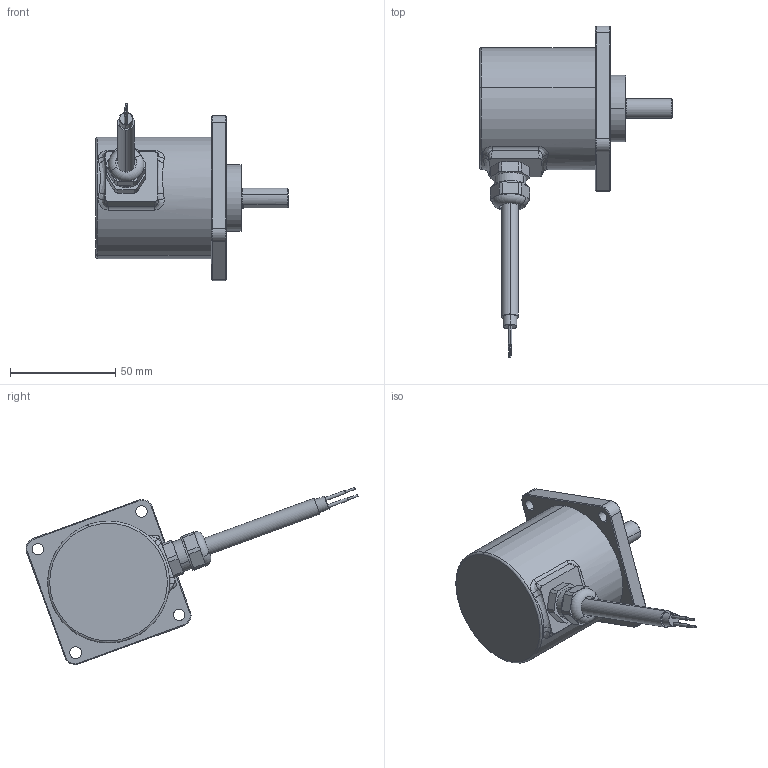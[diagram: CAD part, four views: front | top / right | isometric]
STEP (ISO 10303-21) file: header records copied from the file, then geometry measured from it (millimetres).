
FILE_DESCRIPTION (( 'STEP AP203' ), '1' );
FILE_NAME ('8.5805.ZPX2.STEP', '2013-08-15T08:37:54', ( 'LauferA' ), ( 'Microsoft' ), 'SwSTEP 2.0', 'SolidWorks 2012', '' );
FILE_SCHEMA (( 'CONFIG_CONTROL_DESIGN' ));
Length unit declared in the file: millimetre
Products named in the file (1): 8.5805.ZPX2
Bounding box: 91.75 x 158.02 x 84.34 mm (x, y, z)
Volume: 70306.2 mm3; surface area: 54803.9 mm2
Topology: 9 solids, 9 shells, 349 faces, 841 edges, 517 vertices
Faces by surface type: cylinder 122, plane 98, cone 49, torus 32, bspline 28, sphere 20
Entity records: 12578 total; most frequent: CARTESIAN_POINT 4632, DIRECTION 1721, ORIENTED_EDGE 1566, EDGE_CURVE 783, AXIS2_PLACEMENT_3D 724, VERTEX_POINT 487, EDGE_LOOP 426, CIRCLE 402
